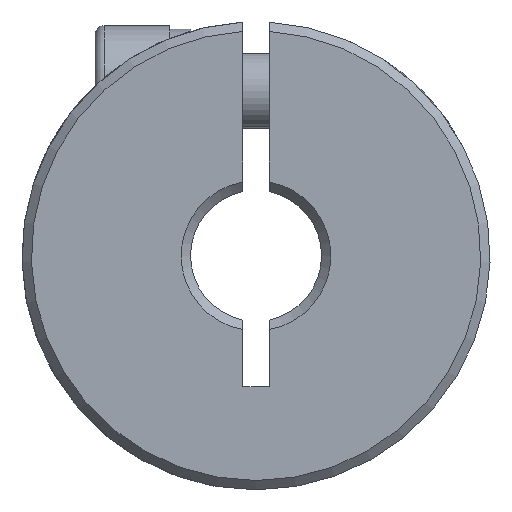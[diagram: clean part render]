
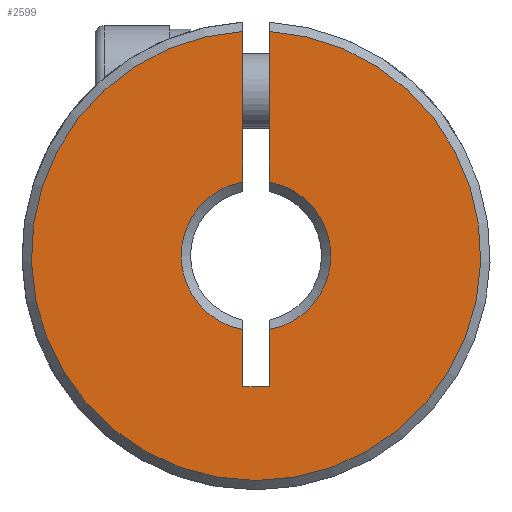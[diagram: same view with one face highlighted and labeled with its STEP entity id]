
A CAD part, front view. The second image highlights one B-rep face of the part: STEP entity #2599.
In plain terms, the highlighted planar face has unit normal (0, -1, 0).
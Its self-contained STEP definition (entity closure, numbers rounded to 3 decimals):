
#5 = EDGE_CURVE ( 'NONE', #1643, #1758, #645, .T. ) ;
#35 = CARTESIAN_POINT ( 'NONE',  ( 0., 0.25, 0. ) ) ;
#59 = VECTOR ( 'NONE', #1959, 1000. ) ;
#77 = CARTESIAN_POINT ( 'NONE',  ( 0.7, 0.25, -7. ) ) ;
#181 = CARTESIAN_POINT ( 'NONE',  ( -0.7, 0.25, 3.938 ) ) ;
#308 = CIRCLE ( 'NONE', #1527, 4. ) ;
#332 = CARTESIAN_POINT ( 'NONE',  ( 0.7, 0.25, -7. ) ) ;
#357 = ORIENTED_EDGE ( 'NONE', *, *, #1213, .F. ) ;
#375 = DIRECTION ( 'NONE',  ( 0., -1., 0. ) ) ;
#423 = LINE ( 'NONE', #2045, #1317 ) ;
#482 = CARTESIAN_POINT ( 'NONE',  ( 0.7, 0.25, 3.938 ) ) ;
#506 = CARTESIAN_POINT ( 'NONE',  ( 12.5, 0.25, -50. ) ) ;
#521 = VERTEX_POINT ( 'NONE', #181 ) ;
#604 = VECTOR ( 'NONE', #1722, 1000. ) ;
#612 = ORIENTED_EDGE ( 'NONE', *, *, #2238, .T. ) ;
#645 = LINE ( 'NONE', #1972, #604 ) ;
#647 = DIRECTION ( 'NONE',  ( 0., 0., 1. ) ) ;
#655 = ORIENTED_EDGE ( 'NONE', *, *, #1466, .F. ) ;
#658 = DIRECTION ( 'NONE',  ( 0., 0., -1. ) ) ;
#698 = AXIS2_PLACEMENT_3D ( 'NONE', #506, #3416, #1809 ) ;
#810 = EDGE_CURVE ( 'NONE', #3265, #521, #2981, .T. ) ;
#825 = CARTESIAN_POINT ( 'NONE',  ( -0.7, 0.25, -7. ) ) ;
#846 = ORIENTED_EDGE ( 'NONE', *, *, #3091, .T. ) ;
#966 = CARTESIAN_POINT ( 'NONE',  ( -0.7, 0.25, 11.98 ) ) ;
#1005 = ORIENTED_EDGE ( 'NONE', *, *, #810, .F. ) ;
#1079 = DIRECTION ( 'NONE',  ( 0., 1., 0. ) ) ;
#1213 = EDGE_CURVE ( 'NONE', #2214, #1299, #2151, .T. ) ;
#1261 = VERTEX_POINT ( 'NONE', #332 ) ;
#1271 = DIRECTION ( 'NONE',  ( 1., 0., 0. ) ) ;
#1299 = VERTEX_POINT ( 'NONE', #1725 ) ;
#1303 = EDGE_CURVE ( 'NONE', #3265, #1299, #2302, .T. ) ;
#1317 = VECTOR ( 'NONE', #1271, 1000. ) ;
#1451 = CARTESIAN_POINT ( 'NONE',  ( 0.7, 0.25, -3.938 ) ) ;
#1465 = DIRECTION ( 'NONE',  ( 0., 0., 1. ) ) ;
#1466 = EDGE_CURVE ( 'NONE', #1758, #1261, #423, .T. ) ;
#1527 = AXIS2_PLACEMENT_3D ( 'NONE', #35, #1079, #3219 ) ;
#1574 = VECTOR ( 'NONE', #658, 1000. ) ;
#1643 = VERTEX_POINT ( 'NONE', #2621 ) ;
#1673 = LINE ( 'NONE', #2923, #2529 ) ;
#1722 = DIRECTION ( 'NONE',  ( 0., 0., -1. ) ) ;
#1725 = CARTESIAN_POINT ( 'NONE',  ( 0.7, 0.25, 11.98 ) ) ;
#1735 = ORIENTED_EDGE ( 'NONE', *, *, #1303, .T. ) ;
#1758 = VERTEX_POINT ( 'NONE', #825 ) ;
#1808 = DIRECTION ( 'NONE',  ( 0., 0., 1. ) ) ;
#1809 = DIRECTION ( 'NONE',  ( 0., 0., 1. ) ) ;
#1959 = DIRECTION ( 'NONE',  ( 0., 0., 1. ) ) ;
#1972 = CARTESIAN_POINT ( 'NONE',  ( -0.7, 0.25, -7. ) ) ;
#2045 = CARTESIAN_POINT ( 'NONE',  ( 0.7, 0.25, -7. ) ) ;
#2052 = ORIENTED_EDGE ( 'NONE', *, *, #3362, .F. ) ;
#2076 = AXIS2_PLACEMENT_3D ( 'NONE', #2256, #2779, #647 ) ;
#2151 = LINE ( 'NONE', #77, #59 ) ;
#2214 = VERTEX_POINT ( 'NONE', #482 ) ;
#2238 = EDGE_CURVE ( 'NONE', #1643, #521, #308, .T. ) ;
#2256 = CARTESIAN_POINT ( 'NONE',  ( 0., 0.25, 0. ) ) ;
#2296 = CARTESIAN_POINT ( 'NONE',  ( -0.7, 0.25, -7. ) ) ;
#2302 = CIRCLE ( 'NONE', #2782, 12. ) ;
#2529 = VECTOR ( 'NONE', #1808, 1000. ) ;
#2599 = ADVANCED_FACE ( 'NONE', ( #3351 ), #3177, .F. ) ;
#2621 = CARTESIAN_POINT ( 'NONE',  ( -0.7, 0.25, -3.938 ) ) ;
#2755 = CIRCLE ( 'NONE', #2076, 4. ) ;
#2761 = ORIENTED_EDGE ( 'NONE', *, *, #5, .F. ) ;
#2779 = DIRECTION ( 'NONE',  ( 0., 1., 0. ) ) ;
#2782 = AXIS2_PLACEMENT_3D ( 'NONE', #3075, #375, #1465 ) ;
#2923 = CARTESIAN_POINT ( 'NONE',  ( 0.7, 0.25, -7. ) ) ;
#2981 = LINE ( 'NONE', #2296, #1574 ) ;
#3075 = CARTESIAN_POINT ( 'NONE',  ( 0., 0.25, 0. ) ) ;
#3091 = EDGE_CURVE ( 'NONE', #2214, #3215, #2755, .T. ) ;
#3135 = EDGE_LOOP ( 'NONE', ( #357, #846, #2052, #655, #2761, #612, #1005, #1735 ) ) ;
#3177 = PLANE ( 'NONE',  #698 ) ;
#3215 = VERTEX_POINT ( 'NONE', #1451 ) ;
#3219 = DIRECTION ( 'NONE',  ( 0., 0., 1. ) ) ;
#3265 = VERTEX_POINT ( 'NONE', #966 ) ;
#3351 = FACE_OUTER_BOUND ( 'NONE', #3135, .T. ) ;
#3362 = EDGE_CURVE ( 'NONE', #1261, #3215, #1673, .T. ) ;
#3416 = DIRECTION ( 'NONE',  ( 0., 1., 0. ) ) ;
